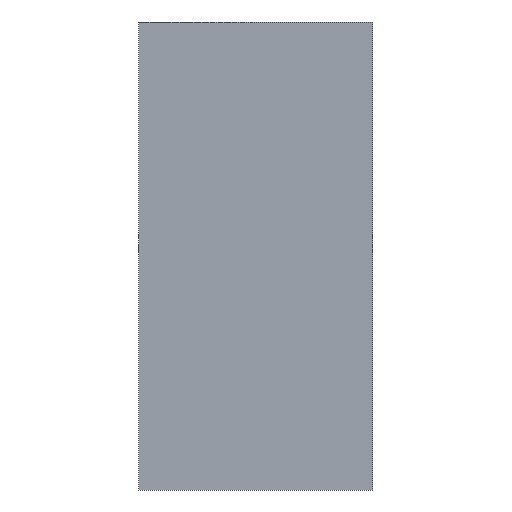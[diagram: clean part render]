
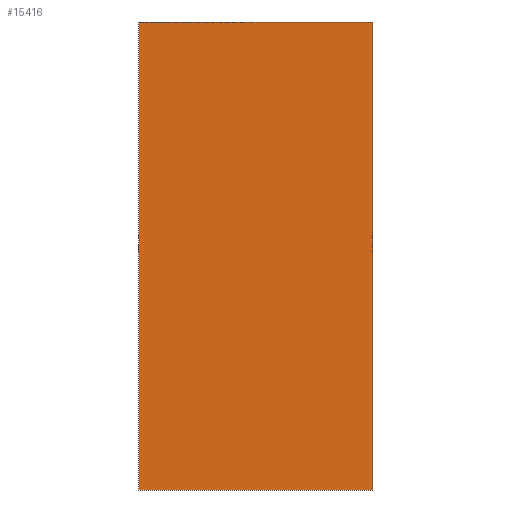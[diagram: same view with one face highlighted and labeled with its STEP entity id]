
A CAD part, front view. The second image highlights one B-rep face of the part: STEP entity #15416.
In plain terms, the highlighted planar face has unit normal (0, -1, 0).
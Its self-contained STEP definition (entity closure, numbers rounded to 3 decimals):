
#1479 = LINE ( 'NONE', #8959, #10001 ) ;
#2572 = CARTESIAN_POINT ( 'NONE',  ( 914.4, 0., 457.2 ) ) ;
#2799 = VERTEX_POINT ( 'NONE', #10203 ) ;
#2844 = CARTESIAN_POINT ( 'NONE',  ( -914.4, 0., -457.2 ) ) ;
#3668 = CARTESIAN_POINT ( 'NONE',  ( -914.4, 0., 457.2 ) ) ;
#3750 = DIRECTION ( 'NONE',  ( 1., 0., 0. ) ) ;
#3912 = VECTOR ( 'NONE', #3750, 1000. ) ;
#4064 = EDGE_CURVE ( 'NONE', #2799, #18564, #17279, .T. ) ;
#4292 = PLANE ( 'NONE',  #15445 ) ;
#5025 = VECTOR ( 'NONE', #16229, 1000. ) ;
#5048 = EDGE_CURVE ( 'NONE', #18564, #17990, #7442, .T. ) ;
#6773 = EDGE_CURVE ( 'NONE', #17990, #13502, #15236, .T. ) ;
#7442 = LINE ( 'NONE', #13260, #5025 ) ;
#7550 = CARTESIAN_POINT ( 'NONE',  ( 0., 0., 0. ) ) ;
#8457 = ORIENTED_EDGE ( 'NONE', *, *, #18839, .F. ) ;
#8588 = DIRECTION ( 'NONE',  ( 0., 0., -1. ) ) ;
#8959 = CARTESIAN_POINT ( 'NONE',  ( 914.4, 0., 457.2 ) ) ;
#10001 = VECTOR ( 'NONE', #8588, 1000. ) ;
#10203 = CARTESIAN_POINT ( 'NONE',  ( 914.4, 0., -457.2 ) ) ;
#10949 = EDGE_LOOP ( 'NONE', ( #8457, #12339, #14712, #18116 ) ) ;
#10960 = CARTESIAN_POINT ( 'NONE',  ( -914.4, 0., -457.2 ) ) ;
#11595 = VECTOR ( 'NONE', #12903, 1000. ) ;
#11855 = DIRECTION ( 'NONE',  ( 0., -1., 0. ) ) ;
#12339 = ORIENTED_EDGE ( 'NONE', *, *, #6773, .F. ) ;
#12903 = DIRECTION ( 'NONE',  ( -1., 0., 0. ) ) ;
#13260 = CARTESIAN_POINT ( 'NONE',  ( -914.4, 0., 457.2 ) ) ;
#13502 = VERTEX_POINT ( 'NONE', #2572 ) ;
#14712 = ORIENTED_EDGE ( 'NONE', *, *, #5048, .F. ) ;
#14805 = FACE_OUTER_BOUND ( 'NONE', #10949, .T. ) ;
#15236 = LINE ( 'NONE', #18373, #3912 ) ;
#15416 = ADVANCED_FACE ( 'NONE', ( #14805 ), #4292, .T. ) ;
#15445 = AXIS2_PLACEMENT_3D ( 'NONE', #7550, #11855, #15951 ) ;
#15951 = DIRECTION ( 'NONE',  ( 0., 0., -1. ) ) ;
#16229 = DIRECTION ( 'NONE',  ( 0., 0., 1. ) ) ;
#17279 = LINE ( 'NONE', #2844, #11595 ) ;
#17990 = VERTEX_POINT ( 'NONE', #3668 ) ;
#18116 = ORIENTED_EDGE ( 'NONE', *, *, #4064, .F. ) ;
#18373 = CARTESIAN_POINT ( 'NONE',  ( -914.4, 0., 457.2 ) ) ;
#18564 = VERTEX_POINT ( 'NONE', #10960 ) ;
#18839 = EDGE_CURVE ( 'NONE', #13502, #2799, #1479, .T. ) ;
